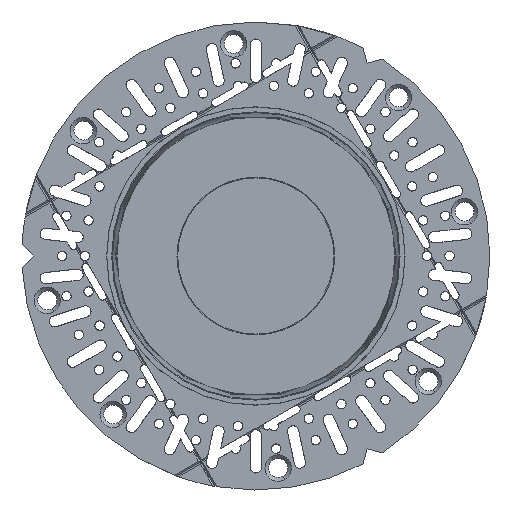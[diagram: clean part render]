
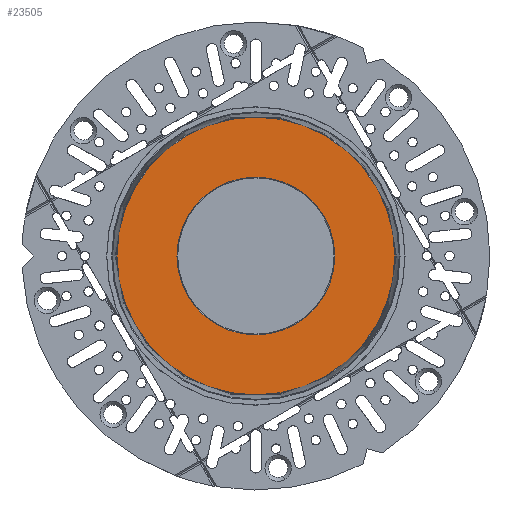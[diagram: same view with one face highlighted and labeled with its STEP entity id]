
A CAD part, front view. The second image highlights one B-rep face of the part: STEP entity #23505.
In plain terms, the highlighted planar face has unit normal (0, -1, 0).
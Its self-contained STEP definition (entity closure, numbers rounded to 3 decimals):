
#2716 = ORIENTED_EDGE ( 'NONE', *, *, #24860, .T. ) ;
#3114 = DIRECTION ( 'NONE',  ( 0., -1., 0. ) ) ;
#7014 = CIRCLE ( 'NONE', #39631, 20.908 ) ;
#7864 = DIRECTION ( 'NONE',  ( 0., 1., 0. ) ) ;
#10159 = CARTESIAN_POINT ( 'NONE',  ( 0., 0., 36.8 ) ) ;
#10628 = DIRECTION ( 'NONE',  ( 0., 0., 1. ) ) ;
#11195 = CARTESIAN_POINT ( 'NONE',  ( 0., 0., 0. ) ) ;
#11753 = CARTESIAN_POINT ( 'NONE',  ( 0., 0., 0. ) ) ;
#12115 = AXIS2_PLACEMENT_3D ( 'NONE', #21678, #3114, #19197 ) ;
#12346 = VERTEX_POINT ( 'NONE', #16697 ) ;
#12949 = DIRECTION ( 'NONE',  ( 0., 1., 0. ) ) ;
#13165 = CARTESIAN_POINT ( 'NONE',  ( 0., 0., 0. ) ) ;
#13563 = ORIENTED_EDGE ( 'NONE', *, *, #25891, .T. ) ;
#15091 = DIRECTION ( 'NONE',  ( 0., -1., 0. ) ) ;
#15598 = CARTESIAN_POINT ( 'NONE',  ( 0., 0., -20.908 ) ) ;
#15729 = EDGE_CURVE ( 'NONE', #40659, #33233, #7014, .T. ) ;
#15804 = EDGE_CURVE ( 'NONE', #33233, #40659, #23633, .T. ) ;
#16332 = AXIS2_PLACEMENT_3D ( 'NONE', #36618, #7864, #27423 ) ;
#16697 = CARTESIAN_POINT ( 'NONE',  ( 0., 0., -36.8 ) ) ;
#19197 = DIRECTION ( 'NONE',  ( 0., 0., 1. ) ) ;
#21000 = DIRECTION ( 'NONE',  ( 0., 1., 0. ) ) ;
#21678 = CARTESIAN_POINT ( 'NONE',  ( 0., 0., 0. ) ) ;
#23330 = PLANE ( 'NONE',  #31865 ) ;
#23505 = ADVANCED_FACE ( 'NONE', ( #38367, #26231 ), #23330, .F. ) ;
#23633 = CIRCLE ( 'NONE', #16332, 20.908 ) ;
#24725 = CIRCLE ( 'NONE', #12115, 36.8 ) ;
#24860 = EDGE_CURVE ( 'NONE', #31577, #12346, #24725, .T. ) ;
#25069 = ORIENTED_EDGE ( 'NONE', *, *, #15729, .T. ) ;
#25891 = EDGE_CURVE ( 'NONE', #12346, #31577, #40791, .T. ) ;
#26231 = FACE_BOUND ( 'NONE', #29573, .T. ) ;
#26788 = AXIS2_PLACEMENT_3D ( 'NONE', #11753, #15091, #40512 ) ;
#27222 = DIRECTION ( 'NONE',  ( 0., 0., 1. ) ) ;
#27423 = DIRECTION ( 'NONE',  ( 0., 0., 1. ) ) ;
#29573 = EDGE_LOOP ( 'NONE', ( #25069, #38155 ) ) ;
#31577 = VERTEX_POINT ( 'NONE', #10159 ) ;
#31865 = AXIS2_PLACEMENT_3D ( 'NONE', #13165, #12949, #10628 ) ;
#33233 = VERTEX_POINT ( 'NONE', #15598 ) ;
#35582 = EDGE_LOOP ( 'NONE', ( #2716, #13563 ) ) ;
#35665 = CARTESIAN_POINT ( 'NONE',  ( 0., 0., 20.908 ) ) ;
#36618 = CARTESIAN_POINT ( 'NONE',  ( 0., 0., 0. ) ) ;
#38155 = ORIENTED_EDGE ( 'NONE', *, *, #15804, .T. ) ;
#38367 = FACE_OUTER_BOUND ( 'NONE', #35582, .T. ) ;
#39631 = AXIS2_PLACEMENT_3D ( 'NONE', #11195, #21000, #27222 ) ;
#40512 = DIRECTION ( 'NONE',  ( 0., 0., 1. ) ) ;
#40659 = VERTEX_POINT ( 'NONE', #35665 ) ;
#40791 = CIRCLE ( 'NONE', #26788, 36.8 ) ;
